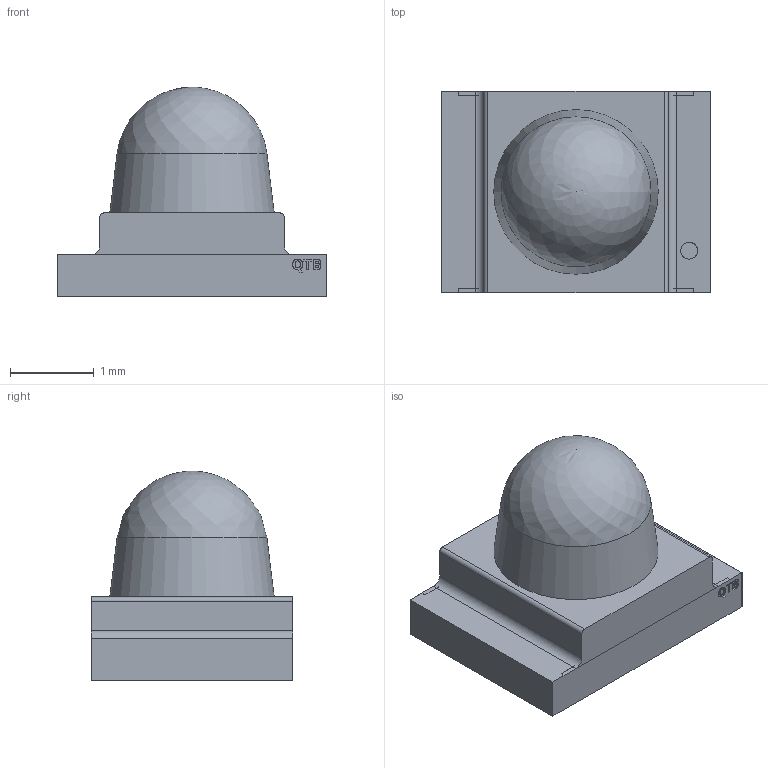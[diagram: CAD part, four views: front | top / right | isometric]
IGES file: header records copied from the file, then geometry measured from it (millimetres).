
Start section: Data from Parasolid IGES Translator 23.1.110, Copyright(c) 2006 Siemens PLM Software. All Rights Reserved.
Global section: file name: 5fab0ea01c17e90e8914f08f.iges; native system: By Siemens PLM Incorporated; preprocessor: XPlus GENERIC/IGES 23.1.110; author: Noname; organization: Noname; date: 20201110.220520; units: metre
Bounding box: 3.2 x 2.4 x 2.5 mm (x, y, z)
Surface area: 58.3 mm2 (no closed solid volume)
Topology: 0 solids, 0 shells, 154 faces, 827 edges, 821 vertices
Faces by surface type: extrusion 146, revolution 8
